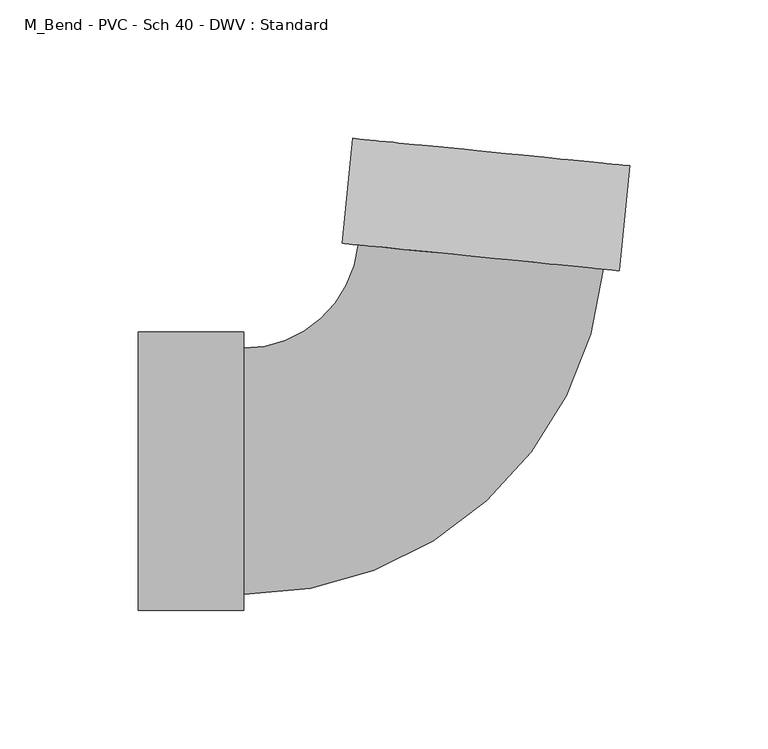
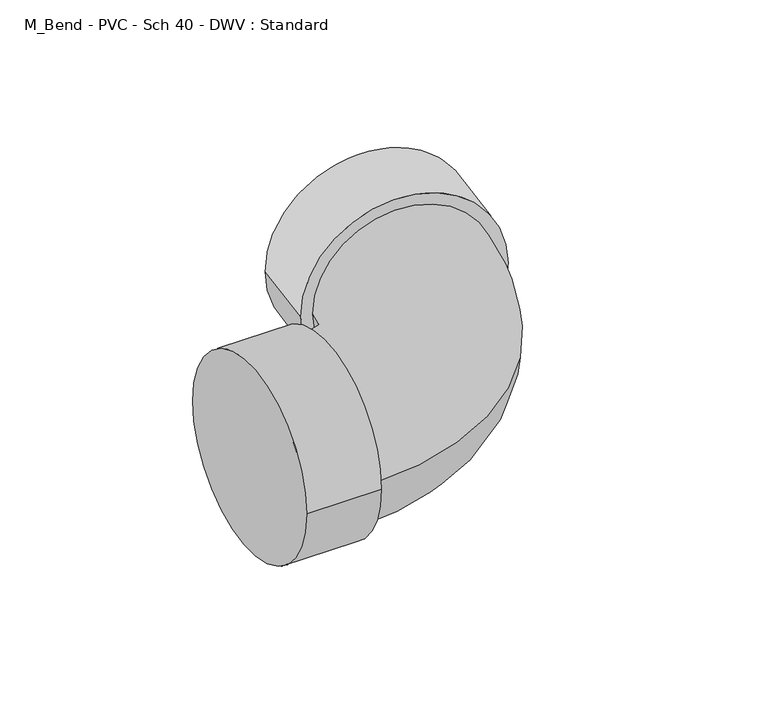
"""IFC4 building model written with IfcOpenShell, lengths in millimetres: pipe fitting geometry, M_Bend - PVC - Sch 40 - DWV : Standard."""

from ifc_helpers import new_model, si_unit, point, frame, origin, place, context, project, spatial, circle_curve, ellipse_curve, trimmed, source, transform, mapped, element, save
from ifc_brep_helpers import plane_surface, cylinder_surface, revolved_surface, advanced_brep


def m_bend_pvc_sch_40_dwv_standard_eec6c4e3(model_context):
    return source(origin(), model_context, "Body", "AdvancedBrep", [
        advanced_brep(
        [(-115.9002, -50.2666, 0.0), (-115.9002, 50.2666, 0.0), (-77.8002, -50.2666, 0.0), (-77.8002, 50.2666, 0.0), (-77.8002, -44.45, 0.0), (-77.8002, 44.45, 0.0), (-36.5681291, 81.8012564, 0.0), (51.8992985, 73.0420183, 0.0), (57.6875959, 72.4689138, 0.0), (-42.3564265, 82.3743609, 0.0), (61.4415552, 110.3835257, 0.0), (-38.6024673, 120.2889727, 0.0)],
        [
            (0, 1, circle_curve(frame((-115.9002, 0.0, 0.0), z_axis=(-1.0, 0.0, 0.0), x_axis=(0.0, 1.0, 0.0)), 50.2666)),
            (1, 0, circle_curve(frame((-115.9002, 0.0, 0.0), z_axis=(-1.0, 0.0, 0.0), x_axis=(0.0, 1.0, 0.0)), 50.2666)),
            (2, 3, circle_curve(frame((-77.8002, 0.0, 0.0), z_axis=(1.0, 0.0, 0.0), x_axis=(0.0, 1.0, 0.0)), 50.2666)),
            (3, 2, circle_curve(frame((-77.8002, 0.0, 0.0), z_axis=(1.0, 0.0, 0.0), x_axis=(0.0, 1.0, 0.0)), 50.2666)),
            (4, 5, circle_curve(frame((-77.8002, 0.0, 0.0), z_axis=(-1.0, 0.0, 0.0), x_axis=(0.0, 1.0, 0.0)), 44.45)),
            (5, 4, circle_curve(frame((-77.8002, 0.0, 0.0), z_axis=(-1.0, 0.0, 0.0), x_axis=(0.0, 1.0, 0.0)), 44.45)),
            (0, 2),
            (3, 1),
            (6, 5, circle_curve(frame((-77.8002, 85.8836802, 0.0), z_axis=(0.0, 0.0, -1.0), x_axis=(0.0, -1.0, 0.0)), 41.4336802)),
            (4, 7, circle_curve(frame((-77.8002, 85.8836802, 0.0), z_axis=(0.0, 0.0, 1.0), x_axis=(0.0, -1.0, 0.0)), 130.3336802)),
            (7, 6, circle_curve(frame((7.6655847, 77.4216374, 0.0), z_axis=(-0.09852911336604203, -0.9951341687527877, 0.0), x_axis=(-0.9951341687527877, 0.09852911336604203, 0.0)), 44.45)),
            (6, 7, circle_curve(frame((7.6655847, 77.4216374, 0.0), z_axis=(-0.09852911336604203, -0.9951341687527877, 0.0), x_axis=(-0.9951341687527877, 0.09852911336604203, 0.0)), 44.45)),
            (8, 9, circle_curve(frame((7.6655847, 77.4216374, 0.0), z_axis=(-0.09852911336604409, -0.9951341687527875, 0.0), x_axis=(-0.9951341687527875, 0.09852911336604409, 0.0)), 50.2666)),
            (9, 8, circle_curve(frame((7.6655847, 77.4216374, 0.0), z_axis=(-0.09852911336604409, -0.9951341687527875, 0.0), x_axis=(-0.9951341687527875, 0.09852911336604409, 0.0)), 50.2666)),
            (10, 11, circle_curve(frame((11.4195439, 115.3362492, 0.0), z_axis=(0.09852911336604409, 0.9951341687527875, 0.0), x_axis=(-0.9951341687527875, 0.09852911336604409, 0.0)), 50.2666)),
            (11, 10, circle_curve(frame((11.4195439, 115.3362492, 0.0), z_axis=(0.09852911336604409, 0.9951341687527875, 0.0), x_axis=(-0.9951341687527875, 0.09852911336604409, 0.0)), 50.2666)),
            (8, 10),
            (11, 9),
        ],
        [
            plane_surface(frame((-115.9002, 0.0, 0.0), z_axis=(-1.0, 0.0, 0.0), x_axis=(0.0, 0.0, 1.0))),
            plane_surface(frame((-77.8002, 0.0, 0.0), z_axis=(1.0, 0.0, 0.0), x_axis=(0.0, 0.0, 1.0))),
            cylinder_surface(frame((-115.9002, 0.0, 0.0), z_axis=(-1.0, 0.0, 0.0), x_axis=(0.0, 1.0, 0.0)), 50.2666),
            revolved_surface(trimmed(ellipse_curve(frame((-77.8002, 0.0, 0.0), z_axis=(-1.0, 0.0, 0.0), x_axis=(0.0, 1.0, 0.0)), 44.45, 44.45), [point((-77.8002, -44.45, 0.0))], [point((-77.8002, 44.45, 0.0))], True, "CARTESIAN"), (-77.8002, 85.8836802, 0.0), (0.0, 0.0, 1.0)),
            revolved_surface(trimmed(ellipse_curve(frame((-77.8002, 0.0, 0.0), z_axis=(-1.0, 0.0, 0.0), x_axis=(0.0, 1.0, 0.0)), 44.45, 44.45), [point((-77.8002, 44.45, 0.0))], [point((-77.8002, -44.45, 0.0))], True, "CARTESIAN"), (-77.8002, 85.8836802, 0.0), (0.0, 0.0, 1.0)),
            plane_surface(frame((7.6655847, 77.4216374, 0.0), z_axis=(-0.09852911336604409, -0.9951341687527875, 0.0), x_axis=(0.0, 0.0, 1.0))),
            plane_surface(frame((11.4195439, 115.3362492, 0.0), z_axis=(0.09852911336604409, 0.9951341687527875, 0.0), x_axis=(0.0, 0.0, 1.0))),
            cylinder_surface(frame((7.6655847, 77.4216374, 0.0), z_axis=(-0.09852911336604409, -0.9951341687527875, 0.0), x_axis=(-0.9951341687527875, 0.09852911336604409, 0.0)), 50.2666),
        ],
        [
            (0, [[1, 2]]),
            (1, [[3, 4], [5, 6]]),
            (2, [[-1, 7, -4, 8]]),
            (2, [[-2, -8, -3, -7]]),
            (3, [[9, -5, 10, 11]]),
            (4, [[-9, 12, -10, -6]]),
            (5, [[13, 14], [-11, -12]]),
            (6, [[15, 16]]),
            (7, [[-13, 17, -16, 18]]),
            (7, [[-14, -18, -15, -17]]),
        ],
    ),
    ])


if __name__ == "__main__":
    model = new_model("IFC4")
    model_context = context("Model", 3, world=origin())
    ifc_project = project(units=[si_unit("LENGTHUNIT", "METRE", prefix="MILLI")], contexts=[model_context])
    site = spatial("IfcSite", under=ifc_project)
    building = spatial("IfcBuilding", under=site)
    placement = place(None, origin())
    m_bend_pvc_sch_40_dwv_standard_shape = m_bend_pvc_sch_40_dwv_standard_eec6c4e3(model_context)
    element("IfcPipeFitting", 1, ObjectType="M_Bend - PVC - Sch 40 - DWV : Standard", at=placement, inside=building, context=model_context, shape_type="MappedRepresentation", body=[
        mapped(m_bend_pvc_sch_40_dwv_standard_shape, transform((0.0, 0.0, 0.0), x_axis=(1.0, 0.0, 0.0), y_axis=(0.0, 1.0, 0.0), z_axis=(0.0, 0.0, 1.0))),
    ])
    save(model, "model.ifc")
